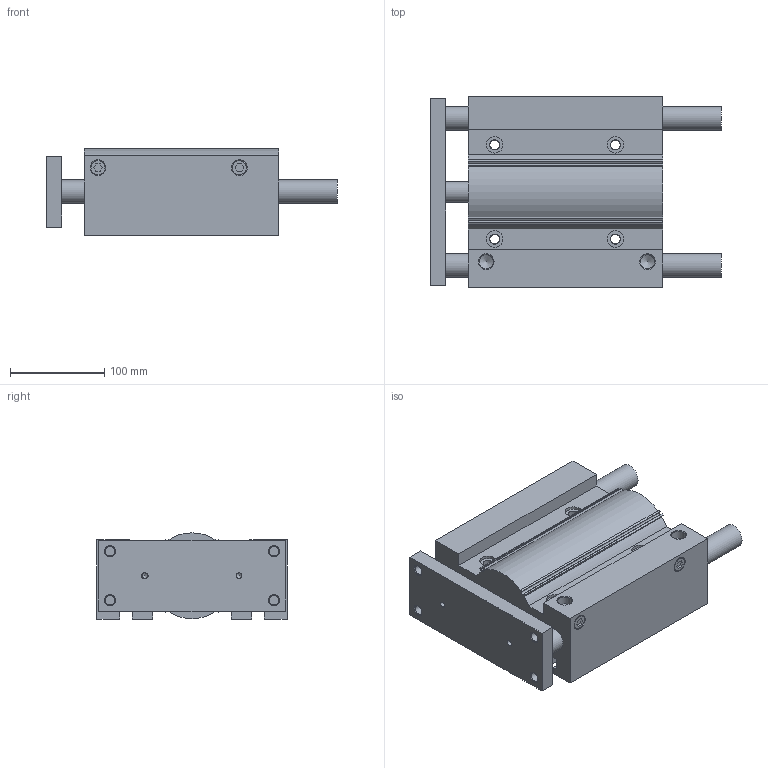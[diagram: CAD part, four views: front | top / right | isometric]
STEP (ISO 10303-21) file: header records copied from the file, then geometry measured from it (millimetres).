
FILE_DESCRIPTION(/* description */ ('STEP AP214'),/* implementation_level */ '2;1');
FILE_NAME(/* name */ 'MGPL80TF-150Z(0_0)',/* time_stamp */ '2025-09-09T11:52:27+02:00',/* author */ ('License CC BY-ND 4.0'),/* organization */ ('CADENAS'),/* preprocessor_version */ 'ST-DEVELOPER v19.3',/* originating_system */ 'PARTsolutions',/* authorisation */ ' ');
FILE_SCHEMA (('AUTOMOTIVE_DESIGN {1 0 10303 214 3 1 1}'));
Length unit declared in the file: millimetre
Products named in the file (4): MGPL80TF-150Z(0_0); MGPL80-150Z(0)_BODY; MGPL80-150Z(0)_ROD; MGP-Z_PLUG_80
Assembly tree (4 placements, depth 2):
  MGPL80TF-150Z(0_0)
    MGPL80-150Z(0)_BODY
    MGPL80-150Z(0)_ROD
    MGP-Z_PLUG_80  x2
Bounding box: 308.5 x 202 x 91.5 mm (x, y, z)
Volume: 2681880 mm3; surface area: 409485.8 mm2
Topology: 4 solids, 4 shells, 200 faces, 484 edges, 308 vertices
Faces by surface type: plane 104, cylinder 58, cone 38
Full cylindrical faces by diameter (mm): 6 x6, 10.106 x12, 10.6 x4, 14.95 x4, 16.662 x2, 17.5 x4, 22 x2, 25 x4, 80 x2
Entity records: 5165 total; most frequent: DIRECTION 892, CARTESIAN_POINT 849, ORIENTED_EDGE 734, EDGE_CURVE 367, AXIS2_PLACEMENT_3D 332, FACE_BOUND 312, EDGE_LOOP 298, VERTEX_POINT 289
